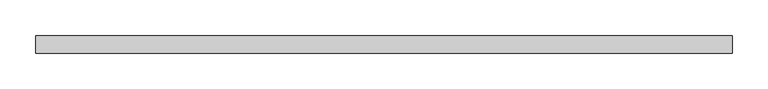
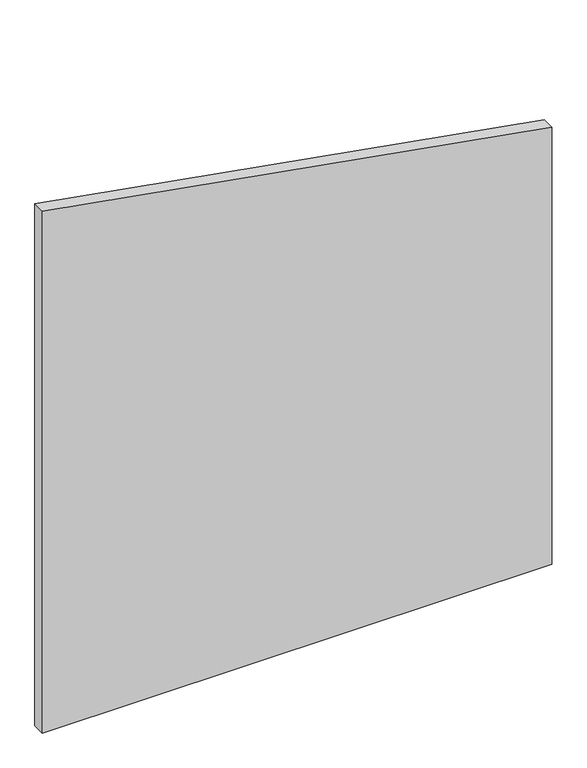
"""IFC4 building model written with IfcOpenShell, lengths in millimetres: plate geometry, 系統嵌板 : 有玻璃的."""

from ifc_helpers import new_model, si_unit, frame, origin, place, context, project, spatial, polyline, outline, extrude, source, transform, mapped, element, save


def plate_96cb0325(model_context):
    return source(origin(), model_context, "Body", "SweptSolid", [
        extrude(outline(polyline([(0.0, -490.8333333), (0.0, 490.8333333), (889.9918473, 490.8333333), (1063.0861667, -490.8333333), (0.0, -490.8333333)])), frame((0.0, 24.5, 0.0), z_axis=(0.0, 1.0, 0.0), x_axis=(0.0, 0.0, 1.0)), (0.0, 0.0, 1.0), 25.0),
    ])


if __name__ == "__main__":
    model = new_model("IFC4")
    model_context = context("Model", 3, world=origin())
    ifc_project = project(units=[si_unit("LENGTHUNIT", "METRE", prefix="MILLI")], contexts=[model_context])
    site = spatial("IfcSite", under=ifc_project)
    building = spatial("IfcBuilding", under=site)
    placement = place(None, origin())
    plate_shape = plate_96cb0325(model_context)
    element("IfcPlate", 1, ObjectType="系統嵌板 : 有玻璃的", at=placement, inside=building, context=model_context, shape_type="MappedRepresentation", body=[
        mapped(plate_shape, transform((0.0, 0.0, 0.0), x_axis=(1.0, 0.0, 0.0), y_axis=(0.0, 1.0, 0.0), z_axis=(0.0, 0.0, 1.0))),
    ])
    save(model, "model.ifc")
